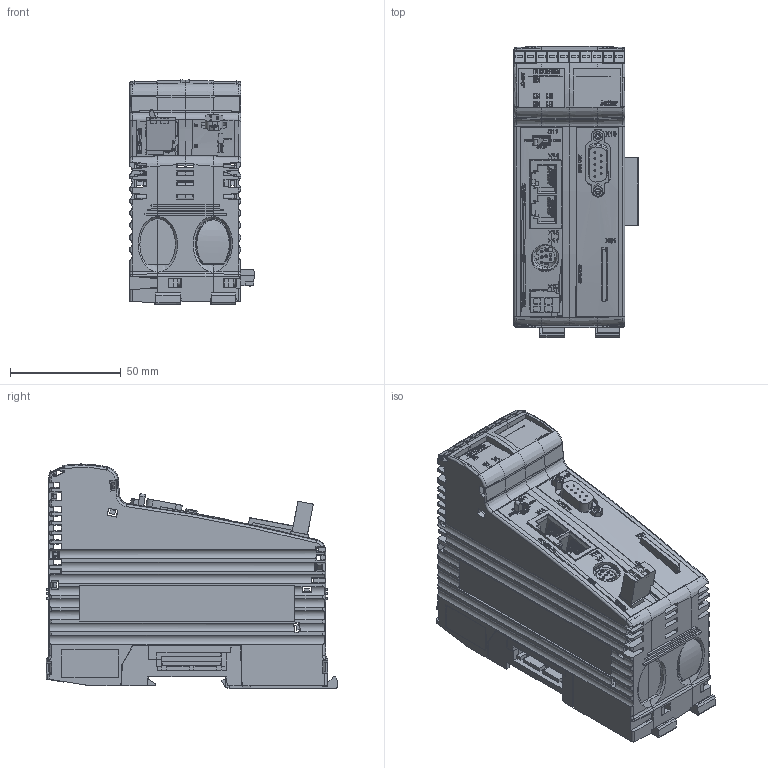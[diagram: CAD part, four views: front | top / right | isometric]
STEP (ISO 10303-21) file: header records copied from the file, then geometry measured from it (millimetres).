
FILE_DESCRIPTION(/* description */ ('FG'),/* implementation_level */ '2;1');
FILE_NAME(/* name */ 'FG_JC-365_002_00',/* time_stamp */ '2016-06-24T09:21:16+02:00',/* author */ ('T. Busch'),/* organization */ ('Jetter AG'),/* preprocessor_version */ 'ST-DEVELOPER v16.7',/* originating_system */ 'DEX',/* authorisation */ $);
FILE_SCHEMA (('AUTOMOTIVE_DESIGN {1 0 10303 214 3 1 1}'));
Products named in the file (27): FG_JC-365_002_00; GE_JC-365_002_00; Sw-LI_JX3_001_01; PCBY_JX3-BN-SW_009_02; BU_08_MINIDIN; BU_RJ45_LED_GRGE_2X; S_R-RO-R_MENTOR; ST_02_E_WI_RM3_5_A; BL_JX3-BN-SW_019_03; Sw-RE_JX3_001_01; FO_JC-365_002_00; BL_JXX_001_1; FO_JX3-Lichtgrau_001_00; BL_JC-340_020; KT_UNC_M3; SD-CARD; PCBY_JC-360_001_02; BU_9_SUB_D_WI_R-LATCH_SMD; BOY_JX3-BP_A1_002_01; PCBY_JX3-BP-BN50_001_00; PCB_JX3-BP-BN50_001_00; ST_10_E_WI_RM2_54; BO_JX3_001_01; DE_JX3_001_00; BO_JX3_002_01; Bc_Weidmüller_001; BLZF_3_5_2_SN_SW_1690420000
Assembly tree (37 placements, depth 4):
  FG_JC-365_002_00
    GE_JC-365_002_00
      Sw-LI_JX3_001_01
      PCBY_JX3-BN-SW_009_02
        BU_08_MINIDIN
        BU_RJ45_LED_GRGE_2X
        S_R-RO-R_MENTOR
        ST_02_E_WI_RM3_5_A
      BL_JX3-BN-SW_019_03
      Sw-RE_JX3_001_01
      FO_JC-365_002_00
      BL_JXX_001_1
      FO_JX3-Lichtgrau_001_00
      BL_JC-340_020
      KT_UNC_M3  x2
      SD-CARD
      PCBY_JC-360_001_02
        BU_9_SUB_D_WI_R-LATCH_SMD
    BOY_JX3-BP_A1_002_01
      PCBY_JX3-BP-BN50_001_00
        PCB_JX3-BP-BN50_001_00
        ST_10_E_WI_RM2_54
      BO_JX3_001_01
      DE_JX3_001_00  x2
      BO_JX3_002_01
    Bc_Weidmüller_001  x10
    BLZF_3_5_2_SN_SW_1690420000
Bounding box: 56 x 131.39 x 101.06 mm (x, y, z)
Volume: 124078.4 mm3; surface area: 154285.2 mm2
Topology: 48 solids, 55 shells, 6806 faces, 18604 edges, 11945 vertices
Faces by surface type: plane 4982, cylinder 944, bspline 391, cone 329, sphere 120, torus 40
Full cylindrical faces by diameter (mm): 0.2 x2, 0.5 x18, 0.6 x3, 0.8 x17, 1 x11, 2.156 x2, 2.2 x2, 2.5 x2, 3 x2, 3.2 x2, 10.4 x1, 12.5 x1
Entity records: 227706 total; most frequent: CARTESIAN_POINT 60679, ORIENTED_EDGE 32548, DIRECTION 28866, EDGE_CURVE 16274, LINE 12970, VECTOR 12970, VERTEX_POINT 10726, AXIS2_PLACEMENT_3D 7948
